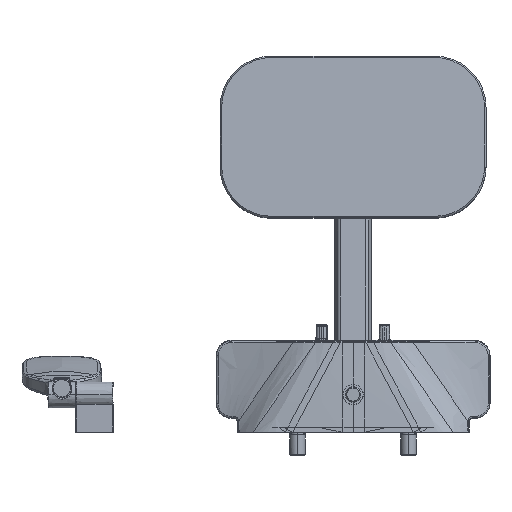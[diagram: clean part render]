
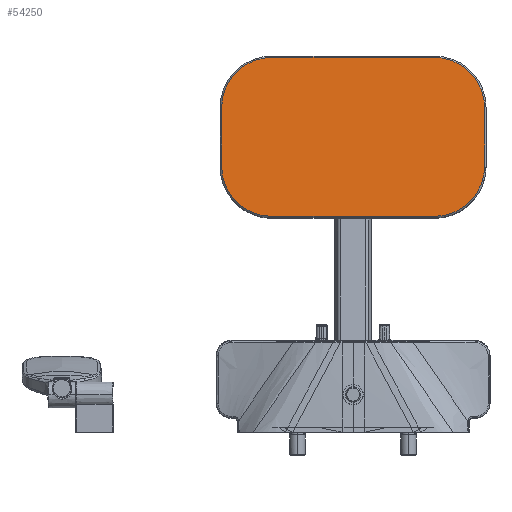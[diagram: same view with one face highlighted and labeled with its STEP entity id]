
A CAD part, front view. The second image highlights one B-rep face of the part: STEP entity #54250.
In plain terms, the highlighted planar face has unit normal (0, -0.996, 0.087).
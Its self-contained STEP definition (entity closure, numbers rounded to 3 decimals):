
#215 = DIRECTION ( 'NONE',  ( -1., 0., 0. ) ) ;
#246 = CARTESIAN_POINT ( 'NONE',  ( -110., 1015.706, 290.827 ) ) ;
#727 = DIRECTION ( 'NONE',  ( -1., 0., 0. ) ) ;
#2836 = CARTESIAN_POINT ( 'NONE',  ( -110., 1034.532, 506.005 ) ) ;
#3009 = CARTESIAN_POINT ( 'NONE',  ( -178., 1028.605, 438.264 ) ) ;
#3877 = CIRCLE ( 'NONE', #32056, 68. ) ;
#4605 = FACE_OUTER_BOUND ( 'NONE', #33938, .T. ) ;
#4968 = LINE ( 'NONE', #37183, #38887 ) ;
#5369 = VERTEX_POINT ( 'NONE', #3009 ) ;
#5426 = CIRCLE ( 'NONE', #19856, 68. ) ;
#5961 = EDGE_CURVE ( 'NONE', #5369, #28695, #21725, .T. ) ;
#6385 = VERTEX_POINT ( 'NONE', #45729 ) ;
#7265 = CARTESIAN_POINT ( 'NONE',  ( -110., 1028.605, 438.264 ) ) ;
#9256 = VECTOR ( 'NONE', #49757, 1000. ) ;
#9395 = ORIENTED_EDGE ( 'NONE', *, *, #5961, .T. ) ;
#10422 = VECTOR ( 'NONE', #48980, 1000. ) ;
#10766 = CARTESIAN_POINT ( 'NONE',  ( 178., 1021.633, 358.568 ) ) ;
#10785 = CARTESIAN_POINT ( 'NONE',  ( -178., 1021.633, 358.568 ) ) ;
#11553 = DIRECTION ( 'NONE',  ( -1., 0., 0. ) ) ;
#11597 = EDGE_CURVE ( 'NONE', #6385, #34594, #43111, .T. ) ;
#11738 = DIRECTION ( 'NONE',  ( 1., 0., 0. ) ) ;
#12121 = VECTOR ( 'NONE', #23702, 1000. ) ;
#13383 = CIRCLE ( 'NONE', #16832, 68. ) ;
#13479 = CARTESIAN_POINT ( 'NONE',  ( 110., 1015.706, 290.827 ) ) ;
#15056 = CARTESIAN_POINT ( 'NONE',  ( 178., 1028.605, 438.264 ) ) ;
#15174 = CARTESIAN_POINT ( 'NONE',  ( -110., 1034.532, 506.005 ) ) ;
#15177 = CARTESIAN_POINT ( 'NONE',  ( 178., 1028.605, 438.264 ) ) ;
#16383 = DIRECTION ( 'NONE',  ( 0., -0.996, 0.087 ) ) ;
#16832 = AXIS2_PLACEMENT_3D ( 'NONE', #41770, #16383, #46032 ) ;
#17427 = CIRCLE ( 'NONE', #25952, 68. ) ;
#19284 = EDGE_CURVE ( 'NONE', #48524, #25132, #4968, .T. ) ;
#19856 = AXIS2_PLACEMENT_3D ( 'NONE', #51579, #26202, #727 ) ;
#21725 = LINE ( 'NONE', #10785, #10422 ) ;
#23702 = DIRECTION ( 'NONE',  ( 0., 0.087, 0.996 ) ) ;
#24414 = DIRECTION ( 'NONE',  ( 0., 0.996, -0.087 ) ) ;
#25132 = VERTEX_POINT ( 'NONE', #13479 ) ;
#25676 = DIRECTION ( 'NONE',  ( 0., -0.996, 0.087 ) ) ;
#25752 = AXIS2_PLACEMENT_3D ( 'NONE', #45364, #24414, #54071 ) ;
#25952 = AXIS2_PLACEMENT_3D ( 'NONE', #7265, #36986, #11553 ) ;
#26202 = DIRECTION ( 'NONE',  ( 0., -0.996, 0.087 ) ) ;
#28695 = VERTEX_POINT ( 'NONE', #54981 ) ;
#29647 = ORIENTED_EDGE ( 'NONE', *, *, #19284, .T. ) ;
#30395 = ORIENTED_EDGE ( 'NONE', *, *, #47178, .T. ) ;
#31889 = EDGE_CURVE ( 'NONE', #51685, #51713, #44642, .T. ) ;
#32056 = AXIS2_PLACEMENT_3D ( 'NONE', #51065, #25676, #215 ) ;
#32296 = EDGE_CURVE ( 'NONE', #51713, #6385, #5426, .T. ) ;
#33938 = EDGE_LOOP ( 'NONE', ( #45912, #30395, #9395, #38500, #29647, #42756, #52843, #39888 ) ) ;
#34594 = VERTEX_POINT ( 'NONE', #15174 ) ;
#36986 = DIRECTION ( 'NONE',  ( 0., -0.996, 0.087 ) ) ;
#37183 = CARTESIAN_POINT ( 'NONE',  ( 110., 1015.706, 290.827 ) ) ;
#38500 = ORIENTED_EDGE ( 'NONE', *, *, #38768, .T. ) ;
#38768 = EDGE_CURVE ( 'NONE', #28695, #48524, #3877, .T. ) ;
#38887 = VECTOR ( 'NONE', #11738, 1000. ) ;
#39888 = ORIENTED_EDGE ( 'NONE', *, *, #32296, .T. ) ;
#41770 = CARTESIAN_POINT ( 'NONE',  ( 110., 1021.633, 358.568 ) ) ;
#42756 = ORIENTED_EDGE ( 'NONE', *, *, #51329, .T. ) ;
#43111 = LINE ( 'NONE', #2836, #9256 ) ;
#44642 = LINE ( 'NONE', #15177, #12121 ) ;
#45364 = CARTESIAN_POINT ( 'NONE',  ( 110., 1021.633, 358.568 ) ) ;
#45729 = CARTESIAN_POINT ( 'NONE',  ( 110., 1034.532, 506.005 ) ) ;
#45912 = ORIENTED_EDGE ( 'NONE', *, *, #11597, .T. ) ;
#46032 = DIRECTION ( 'NONE',  ( -1., 0., 0. ) ) ;
#47178 = EDGE_CURVE ( 'NONE', #34594, #5369, #17427, .T. ) ;
#48524 = VERTEX_POINT ( 'NONE', #246 ) ;
#48980 = DIRECTION ( 'NONE',  ( 0., -0.087, -0.996 ) ) ;
#49757 = DIRECTION ( 'NONE',  ( -1., 0., 0. ) ) ;
#49797 = PLANE ( 'NONE',  #25752 ) ;
#51065 = CARTESIAN_POINT ( 'NONE',  ( -110., 1021.633, 358.568 ) ) ;
#51329 = EDGE_CURVE ( 'NONE', #25132, #51685, #13383, .T. ) ;
#51579 = CARTESIAN_POINT ( 'NONE',  ( 110., 1028.605, 438.264 ) ) ;
#51685 = VERTEX_POINT ( 'NONE', #10766 ) ;
#51713 = VERTEX_POINT ( 'NONE', #15056 ) ;
#52843 = ORIENTED_EDGE ( 'NONE', *, *, #31889, .T. ) ;
#54071 = DIRECTION ( 'NONE',  ( -1., 0., 0. ) ) ;
#54250 = ADVANCED_FACE ( 'NONE', ( #4605 ), #49797, .F. ) ;
#54981 = CARTESIAN_POINT ( 'NONE',  ( -178., 1021.633, 358.568 ) ) ;
